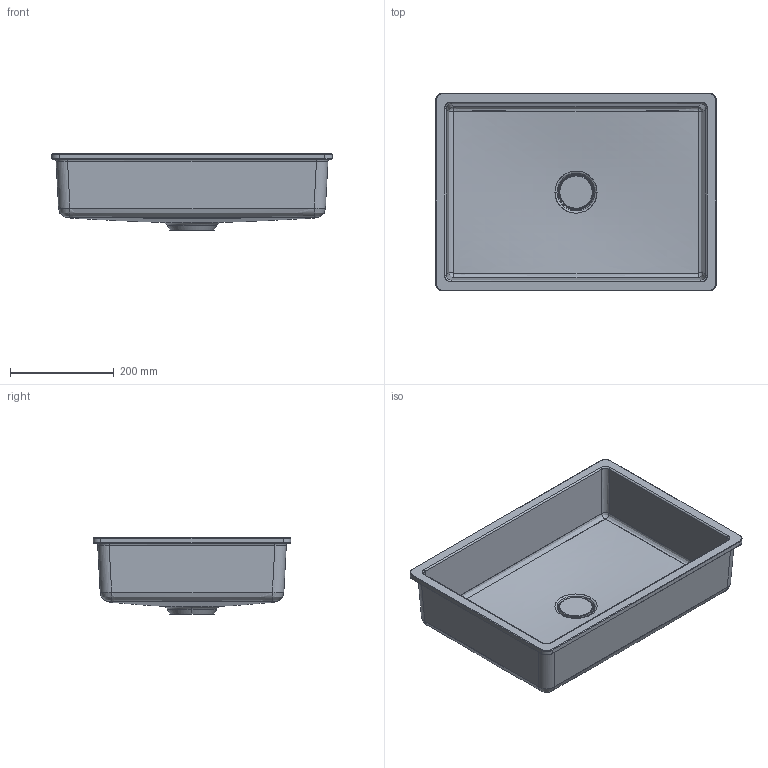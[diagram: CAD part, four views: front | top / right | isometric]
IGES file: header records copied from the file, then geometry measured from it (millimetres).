
Global section: file name: \\Archi-NAS\Comune\X GIOVANNI\LAVABI\DA INCASSO\INCA 50\3D\INCA 50.igs; native system: Rhinoceros ( Feb 23 2021 ); preprocessor: Trout Lake IGES 012 Feb 23 2021; date: 230525.125039; units: millimetre
Bounding box: 542.84 x 382.04 x 147 mm (x, y, z)
Surface area: 777037.9 mm2 (no closed solid volume)
Topology: 0 solids, 0 shells, 99 faces, 798 edges, 795 vertices
Faces by surface type: bspline 99
